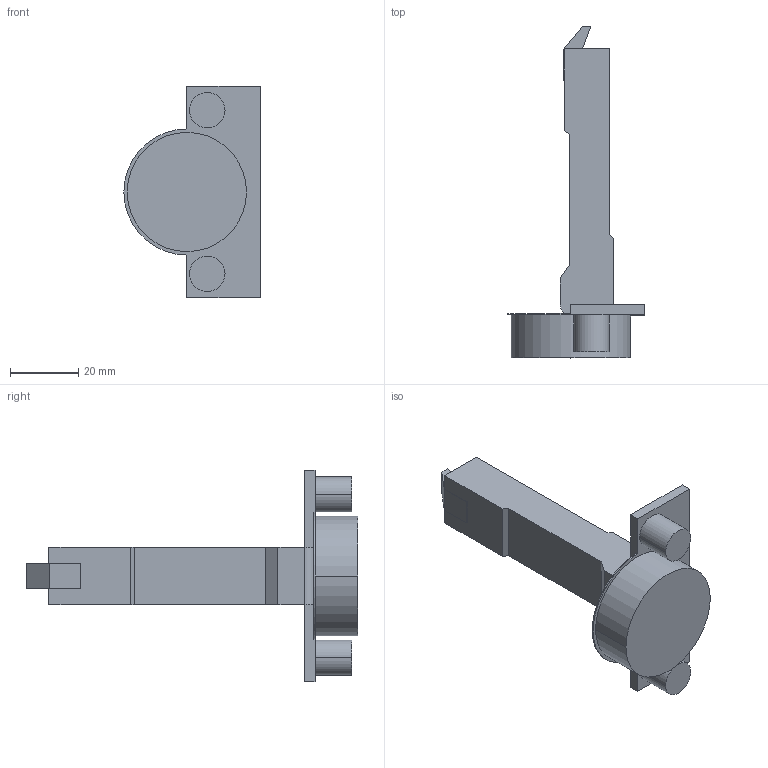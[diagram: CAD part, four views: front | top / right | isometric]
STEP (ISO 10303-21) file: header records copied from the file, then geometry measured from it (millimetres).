
FILE_DESCRIPTION (( 'STEP AP214' ), '1' );
FILE_NAME ('Scharnier T Click-on 100° S_BB, Dübel.step', '2014-04-09T06:33:36', ( '' ), ( '' ), 'SwSTEP 2.0', 'SolidWorks 2013', '' );
FILE_SCHEMA (( 'AUTOMOTIVE_DESIGN' ));
Length unit declared in the file: millimetre
Products named in the file (1): Scharnier T Click-on 100° S_BB, Dübel
Bounding box: 40 x 97.4 x 62 mm (x, y, z)
Volume: 34823 mm3; surface area: 11189.4 mm2
Topology: 1 solids, 1 shells, 55 faces, 135 edges, 90 vertices
Faces by surface type: plane 36, cylinder 19
Entity records: 1661 total; most frequent: DIRECTION 285, CARTESIAN_POINT 281, ORIENTED_EDGE 270, EDGE_CURVE 135, LINE 97, VECTOR 97, AXIS2_PLACEMENT_3D 94, VERTEX_POINT 90
